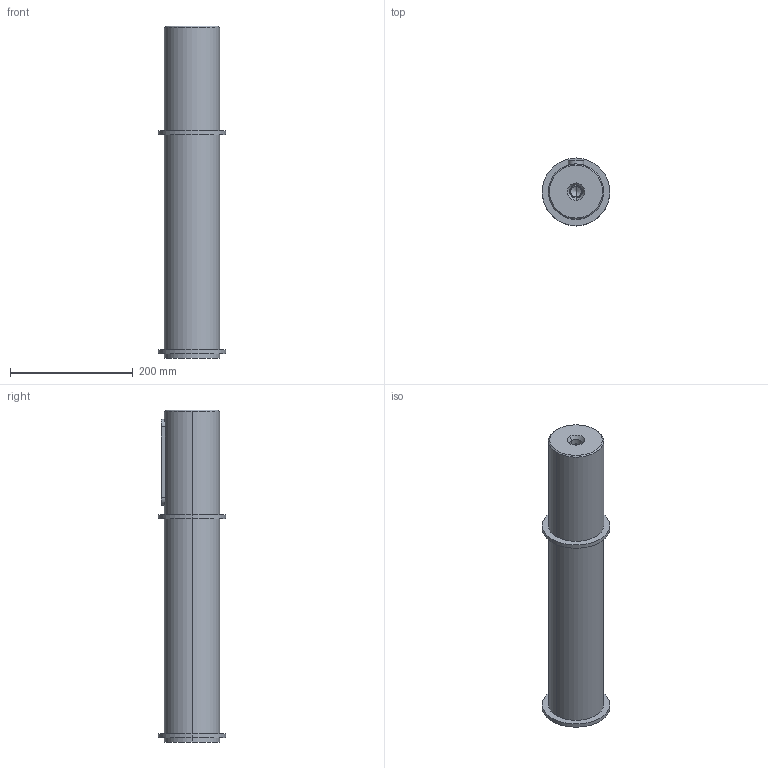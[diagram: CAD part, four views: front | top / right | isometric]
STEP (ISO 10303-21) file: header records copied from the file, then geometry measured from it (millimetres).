
FILE_DESCRIPTION(/* description */ (''),/* implementation_level */ '2;1');
FILE_NAME(/* name */ '4_ALBERO LENTO SEMPLICE B153',/* time_stamp */ '2025-10-22T11:29:19+02:00',/* author */ (''),/* organization */ (''),/* preprocessor_version */ 'ST-DEVELOPER v19.2',/* originating_system */ 'Rhino 8.23',/* authorisation */ '');
FILE_SCHEMA (('CONFIG_CONTROL_DESIGN'));
Length unit declared in the file: millimetre
Products named in the file (2): Document; Albero 90x170-(1531)
Bounding box: 110 x 110 x 540 mm (x, y, z)
Volume: 3479021.9 mm3; surface area: 183342.7 mm2
Topology: 1 solids, 1 shells, 34 faces, 70 edges, 43 vertices
Faces by surface type: cylinder 16, plane 10, bspline 8
Entity records: 1182 total; most frequent: CARTESIAN_POINT 345, ORIENTED_EDGE 136, DIRECTION 106, EDGE_CURVE 68, AXIS2_PLACEMENT_3D 66, VERTEX_POINT 43, EDGE_LOOP 41, TRIMMED_CURVE 36
